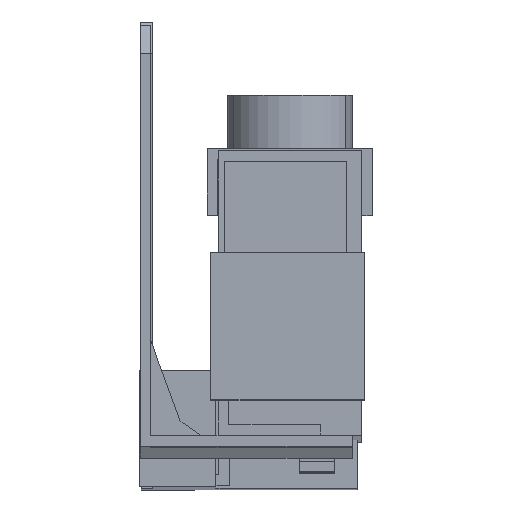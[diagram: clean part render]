
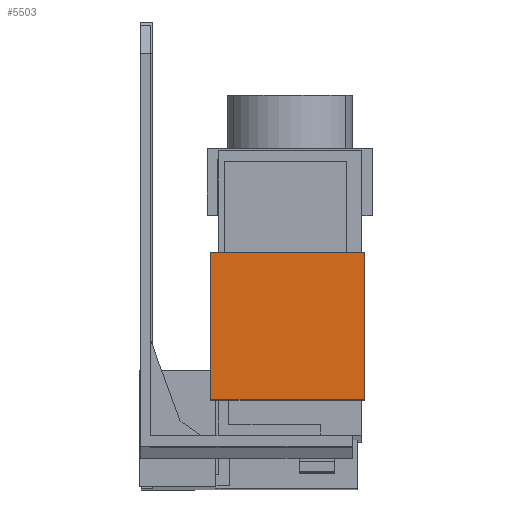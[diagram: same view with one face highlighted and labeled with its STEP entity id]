
A CAD part, front view. The second image highlights one B-rep face of the part: STEP entity #5503.
In plain terms, the highlighted planar face has unit normal (0, -1, 0.003).
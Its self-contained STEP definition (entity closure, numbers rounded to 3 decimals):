
#187 = CARTESIAN_POINT ( 'NONE',  ( 31.95, -31.452, -19.316 ) ) ;
#197 = DIRECTION ( 'NONE',  ( 0., -0.003, -1. ) ) ;
#381 = DIRECTION ( 'NONE',  ( 1., 0., 0. ) ) ;
#439 = CARTESIAN_POINT ( 'NONE',  ( 9.3, -31.509, -40.315 ) ) ;
#525 = CARTESIAN_POINT ( 'NONE',  ( 10.05, -31.452, -19.316 ) ) ;
#526 = CARTESIAN_POINT ( 'NONE',  ( 10.05, -31.509, -40.315 ) ) ;
#536 = CARTESIAN_POINT ( 'NONE',  ( 31.95, -31.509, -40.315 ) ) ;
#659 = CARTESIAN_POINT ( 'NONE',  ( 31.95, -31.452, -19.316 ) ) ;
#722 = EDGE_LOOP ( 'NONE', ( #1351, #1352, #1353, #1354 ) ) ;
#1351 = ORIENTED_EDGE ( 'NONE', *, *, #5254, .F. ) ;
#1352 = ORIENTED_EDGE ( 'NONE', *, *, #5378, .F. ) ;
#1353 = ORIENTED_EDGE ( 'NONE', *, *, #4846, .T. ) ;
#1354 = ORIENTED_EDGE ( 'NONE', *, *, #4953, .F. ) ;
#1641 = LINE ( 'NONE', #439, #1648 ) ;
#1648 = VECTOR ( 'NONE', #381, 1000. ) ;
#1811 = LINE ( 'NONE', #187, #1813 ) ;
#1813 = VECTOR ( 'NONE', #197, 1000. ) ;
#2286 = LINE ( 'NONE', #2581, #2287 ) ;
#2287 = VECTOR ( 'NONE', #2582, 1000. ) ;
#2581 = CARTESIAN_POINT ( 'NONE',  ( 9.3, -31.452, -19.316 ) ) ;
#2582 = DIRECTION ( 'NONE',  ( 1., 0., 0. ) ) ;
#2825 = CARTESIAN_POINT ( 'NONE',  ( 10.05, -31.509, -40.315 ) ) ;
#2826 = DIRECTION ( 'NONE',  ( 0., 0.003, 1. ) ) ;
#3062 = PLANE ( 'NONE',  #4231 ) ;
#3065 = CARTESIAN_POINT ( 'NONE',  ( 9.3, -31.509, -40.315 ) ) ;
#3071 = DIRECTION ( 'NONE',  ( 0., -1., 0.003 ) ) ;
#3072 = DIRECTION ( 'NONE',  ( -1., 0., 0. ) ) ;
#3702 = LINE ( 'NONE', #2825, #3703 ) ;
#3703 = VECTOR ( 'NONE', #2826, 1000. ) ;
#3785 = FACE_OUTER_BOUND ( 'NONE', #722, .T. ) ;
#4231 = AXIS2_PLACEMENT_3D ( 'NONE', #3065, #3071, #3072 ) ;
#4547 = VERTEX_POINT ( 'NONE', #536 ) ;
#4559 = VERTEX_POINT ( 'NONE', #526 ) ;
#4560 = VERTEX_POINT ( 'NONE', #525 ) ;
#4577 = VERTEX_POINT ( 'NONE', #659 ) ;
#4846 = EDGE_CURVE ( 'NONE', #4559, #4547, #1641, .T. ) ;
#4953 = EDGE_CURVE ( 'NONE', #4577, #4547, #1811, .T. ) ;
#5254 = EDGE_CURVE ( 'NONE', #4560, #4577, #2286, .T. ) ;
#5378 = EDGE_CURVE ( 'NONE', #4559, #4560, #3702, .T. ) ;
#5503 = ADVANCED_FACE ( 'NONE', ( #3785 ), #3062, .T. ) ;
